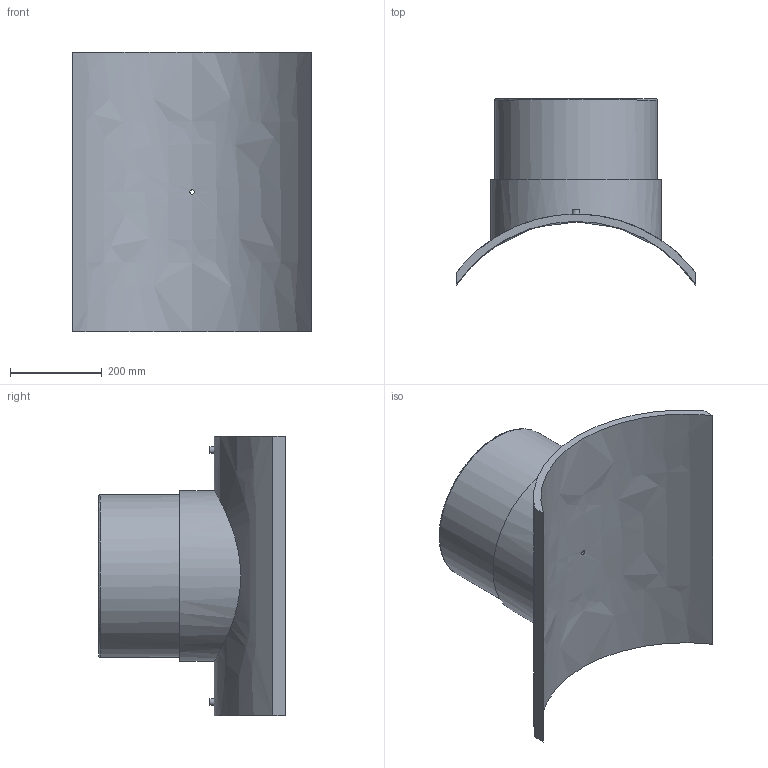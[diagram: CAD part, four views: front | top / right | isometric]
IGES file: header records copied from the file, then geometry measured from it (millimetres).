
Global section: file name: 495803630355T; native system: Autodesk Inventor 2019; preprocessor: unknown; author: KIM; date: 20240404.115424; units: millimetre
Bounding box: 522 x 406.64 x 610 mm (x, y, z)
Volume: 16695415.9 mm3; surface area: 1358557.3 mm2
Topology: 1 solids, 1 shells, 29 faces, 60 edges, 43 vertices
Faces by surface type: bspline 29
